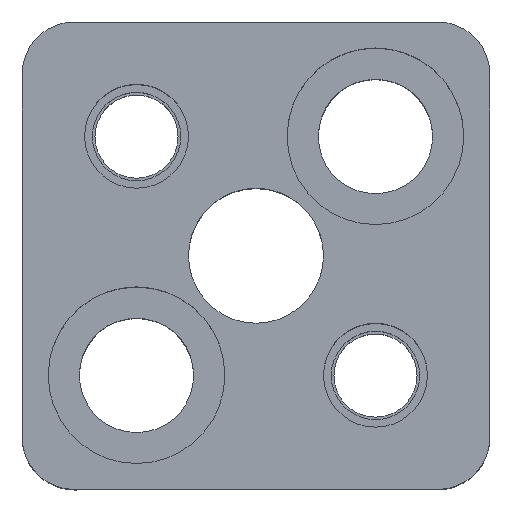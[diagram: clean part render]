
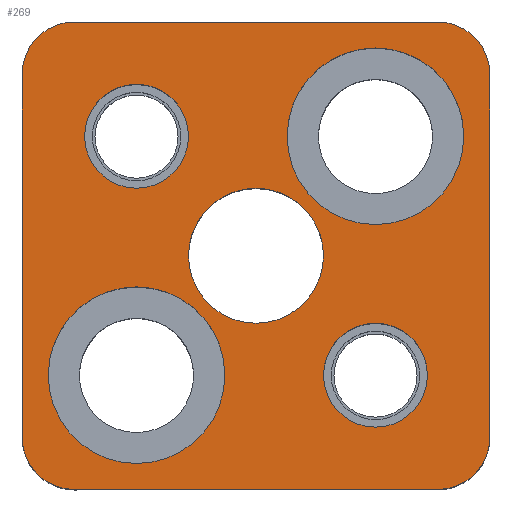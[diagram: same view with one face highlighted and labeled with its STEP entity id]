
A CAD part, top view. The second image highlights one B-rep face of the part: STEP entity #269.
In plain terms, the highlighted planar face has unit normal (0, 0, 1).
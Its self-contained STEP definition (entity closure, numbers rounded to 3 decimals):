
#111=FACE_BOUND('',#400,.T.);
#112=FACE_BOUND('',#401,.T.);
#113=FACE_BOUND('',#402,.T.);
#114=FACE_BOUND('',#403,.T.);
#115=FACE_BOUND('',#404,.T.);
#116=FACE_BOUND('',#405,.T.);
#162=CIRCLE('',#1027,5.);
#164=CIRCLE('',#1031,5.);
#166=CIRCLE('',#1035,5.);
#168=CIRCLE('',#1039,5.);
#181=CIRCLE('',#1065,8.5);
#183=CIRCLE('',#1068,8.5);
#185=CIRCLE('',#1072,8.5);
#187=CIRCLE('',#1075,8.5);
#211=CIRCLE('',#1118,5.);
#212=CIRCLE('',#1119,5.);
#213=CIRCLE('',#1120,5.);
#214=CIRCLE('',#1121,5.);
#215=CIRCLE('',#1122,6.5);
#216=CIRCLE('',#1123,6.5);
#269=ADVANCED_FACE('',(#111,#112,#113,#114,#115,#116),#297,.T.);
#297=PLANE('',#1124);
#400=EDGE_LOOP('',(#613,#614,#615,#616,#617,#618,#619,#620));
#401=EDGE_LOOP('',(#621,#622));
#402=EDGE_LOOP('',(#623,#624));
#403=EDGE_LOOP('',(#625,#626));
#404=EDGE_LOOP('',(#627,#628));
#405=EDGE_LOOP('',(#629,#630));
#613=ORIENTED_EDGE('',*,*,#785,.T.);
#614=ORIENTED_EDGE('',*,*,#782,.T.);
#615=ORIENTED_EDGE('',*,*,#779,.T.);
#616=ORIENTED_EDGE('',*,*,#776,.T.);
#617=ORIENTED_EDGE('',*,*,#773,.T.);
#618=ORIENTED_EDGE('',*,*,#770,.T.);
#619=ORIENTED_EDGE('',*,*,#791,.T.);
#620=ORIENTED_EDGE('',*,*,#788,.T.);
#621=ORIENTED_EDGE('',*,*,#877,.F.);
#622=ORIENTED_EDGE('',*,*,#878,.F.);
#623=ORIENTED_EDGE('',*,*,#879,.F.);
#624=ORIENTED_EDGE('',*,*,#880,.F.);
#625=ORIENTED_EDGE('',*,*,#830,.F.);
#626=ORIENTED_EDGE('',*,*,#826,.F.);
#627=ORIENTED_EDGE('',*,*,#824,.F.);
#628=ORIENTED_EDGE('',*,*,#820,.F.);
#629=ORIENTED_EDGE('',*,*,#881,.T.);
#630=ORIENTED_EDGE('',*,*,#882,.T.);
#685=VERTEX_POINT('',#1454);
#686=VERTEX_POINT('',#1456);
#688=VERTEX_POINT('',#1462);
#690=VERTEX_POINT('',#1468);
#692=VERTEX_POINT('',#1474);
#694=VERTEX_POINT('',#1480);
#696=VERTEX_POINT('',#1486);
#698=VERTEX_POINT('',#1492);
#715=VERTEX_POINT('',#1567);
#716=VERTEX_POINT('',#1568);
#719=VERTEX_POINT('',#1580);
#720=VERTEX_POINT('',#1581);
#754=VERTEX_POINT('',#1691);
#755=VERTEX_POINT('',#1692);
#756=VERTEX_POINT('',#1695);
#757=VERTEX_POINT('',#1696);
#758=VERTEX_POINT('',#1699);
#759=VERTEX_POINT('',#1700);
#770=EDGE_CURVE('',#686,#685,#902,.T.);
#773=EDGE_CURVE('',#688,#686,#162,.T.);
#776=EDGE_CURVE('',#690,#688,#906,.T.);
#779=EDGE_CURVE('',#692,#690,#164,.T.);
#782=EDGE_CURVE('',#694,#692,#910,.T.);
#785=EDGE_CURVE('',#696,#694,#166,.T.);
#788=EDGE_CURVE('',#698,#696,#914,.T.);
#791=EDGE_CURVE('',#685,#698,#168,.T.);
#820=EDGE_CURVE('',#715,#716,#181,.T.);
#824=EDGE_CURVE('',#716,#715,#183,.T.);
#826=EDGE_CURVE('',#719,#720,#185,.T.);
#830=EDGE_CURVE('',#720,#719,#187,.T.);
#877=EDGE_CURVE('',#754,#755,#211,.T.);
#878=EDGE_CURVE('',#755,#754,#212,.T.);
#879=EDGE_CURVE('',#756,#757,#213,.T.);
#880=EDGE_CURVE('',#757,#756,#214,.T.);
#881=EDGE_CURVE('',#758,#759,#215,.T.);
#882=EDGE_CURVE('',#759,#758,#216,.T.);
#902=LINE('',#1455,#964);
#906=LINE('',#1467,#968);
#910=LINE('',#1479,#972);
#914=LINE('',#1491,#976);
#964=VECTOR('',#1149,1.);
#968=VECTOR('',#1161,1.);
#972=VECTOR('',#1173,1.);
#976=VECTOR('',#1185,1.);
#1027=AXIS2_PLACEMENT_3D('',#1461,#1155,#1156);
#1031=AXIS2_PLACEMENT_3D('',#1473,#1167,#1168);
#1035=AXIS2_PLACEMENT_3D('',#1485,#1179,#1180);
#1039=AXIS2_PLACEMENT_3D('',#1496,#1191,#1192);
#1065=AXIS2_PLACEMENT_3D('',#1566,#1255,#1256);
#1068=AXIS2_PLACEMENT_3D('',#1575,#1263,#1264);
#1072=AXIS2_PLACEMENT_3D('',#1579,#1271,#1272);
#1075=AXIS2_PLACEMENT_3D('',#1588,#1279,#1280);
#1118=AXIS2_PLACEMENT_3D('',#1690,#1387,#1388);
#1119=AXIS2_PLACEMENT_3D('',#1693,#1389,#1390);
#1120=AXIS2_PLACEMENT_3D('',#1694,#1391,#1392);
#1121=AXIS2_PLACEMENT_3D('',#1697,#1393,#1394);
#1122=AXIS2_PLACEMENT_3D('',#1698,#1395,#1396);
#1123=AXIS2_PLACEMENT_3D('',#1701,#1397,#1398);
#1124=AXIS2_PLACEMENT_3D('',#1702,#1399,#1400);
#1149=DIRECTION('',(0.,-1.,0.));
#1155=DIRECTION('',(0.,0.,1.));
#1156=DIRECTION('',(0.707,-0.707,0.));
#1161=DIRECTION('',(-1.,0.,0.));
#1167=DIRECTION('',(0.,0.,1.));
#1168=DIRECTION('',(-0.707,-0.707,0.));
#1173=DIRECTION('',(0.,1.,0.));
#1179=DIRECTION('',(0.,0.,1.));
#1180=DIRECTION('',(-0.707,0.707,0.));
#1185=DIRECTION('',(1.,0.,0.));
#1191=DIRECTION('',(0.,0.,1.));
#1192=DIRECTION('',(0.707,0.707,0.));
#1255=DIRECTION('',(0.,0.,1.));
#1256=DIRECTION('',(-1.,0.,0.));
#1263=DIRECTION('',(0.,0.,1.));
#1264=DIRECTION('',(1.,0.,0.));
#1271=DIRECTION('',(0.,0.,1.));
#1272=DIRECTION('',(-1.,0.,0.));
#1279=DIRECTION('',(0.,0.,1.));
#1280=DIRECTION('',(1.,0.,0.));
#1387=DIRECTION('',(0.,0.,1.));
#1388=DIRECTION('',(1.,0.,0.));
#1389=DIRECTION('',(0.,0.,1.));
#1390=DIRECTION('',(-1.,0.,0.));
#1391=DIRECTION('',(0.,0.,1.));
#1392=DIRECTION('',(1.,0.,0.));
#1393=DIRECTION('',(0.,0.,1.));
#1394=DIRECTION('',(-1.,0.,0.));
#1395=DIRECTION('',(0.,0.,-1.));
#1396=DIRECTION('',(-1.,0.,0.));
#1397=DIRECTION('',(0.,0.,-1.));
#1398=DIRECTION('',(1.,0.,0.));
#1399=DIRECTION('',(0.,0.,1.));
#1400=DIRECTION('',(-1.,0.,0.));
#1454=CARTESIAN_POINT('',(-22.5,-17.5,30.));
#1455=CARTESIAN_POINT('',(-22.5,17.5,30.));
#1456=CARTESIAN_POINT('',(-22.5,17.5,30.));
#1461=CARTESIAN_POINT('',(-17.5,17.5,30.));
#1462=CARTESIAN_POINT('',(-17.5,22.5,30.));
#1467=CARTESIAN_POINT('',(-17.5,22.5,30.));
#1468=CARTESIAN_POINT('',(17.5,22.5,30.));
#1473=CARTESIAN_POINT('',(17.5,17.5,30.));
#1474=CARTESIAN_POINT('',(22.5,17.5,30.));
#1479=CARTESIAN_POINT('',(22.5,17.5,30.));
#1480=CARTESIAN_POINT('',(22.5,-17.5,30.));
#1485=CARTESIAN_POINT('',(17.5,-17.5,30.));
#1486=CARTESIAN_POINT('',(17.5,-22.5,30.));
#1491=CARTESIAN_POINT('',(-17.5,-22.5,30.));
#1492=CARTESIAN_POINT('',(-17.5,-22.5,30.));
#1496=CARTESIAN_POINT('',(-17.5,-17.5,30.));
#1566=CARTESIAN_POINT('',(-11.5,-11.5,30.));
#1567=CARTESIAN_POINT('',(-11.5,-20.,30.));
#1568=CARTESIAN_POINT('',(-11.5,-3.,30.));
#1575=CARTESIAN_POINT('',(-11.5,-11.5,30.));
#1579=CARTESIAN_POINT('',(11.5,11.5,30.));
#1580=CARTESIAN_POINT('',(11.5,3.,30.));
#1581=CARTESIAN_POINT('',(11.5,20.,30.));
#1588=CARTESIAN_POINT('',(11.5,11.5,30.));
#1690=CARTESIAN_POINT('',(-11.5,11.5,30.));
#1691=CARTESIAN_POINT('',(-11.5,16.5,30.));
#1692=CARTESIAN_POINT('',(-11.5,6.5,30.));
#1693=CARTESIAN_POINT('',(-11.5,11.5,30.));
#1694=CARTESIAN_POINT('',(11.5,-11.5,30.));
#1695=CARTESIAN_POINT('',(11.5,-6.5,30.));
#1696=CARTESIAN_POINT('',(11.5,-16.5,30.));
#1697=CARTESIAN_POINT('',(11.5,-11.5,30.));
#1698=CARTESIAN_POINT('',(0.,0.,30.));
#1699=CARTESIAN_POINT('',(0.,6.5,30.));
#1700=CARTESIAN_POINT('',(0.,-6.5,30.));
#1701=CARTESIAN_POINT('',(0.,0.,30.));
#1702=CARTESIAN_POINT('',(17.5,-22.5,30.));
